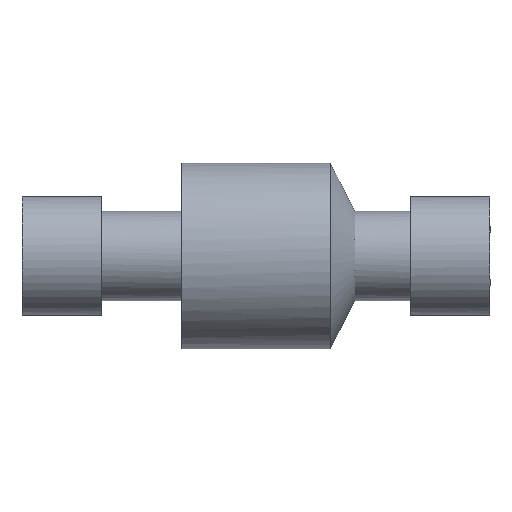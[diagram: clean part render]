
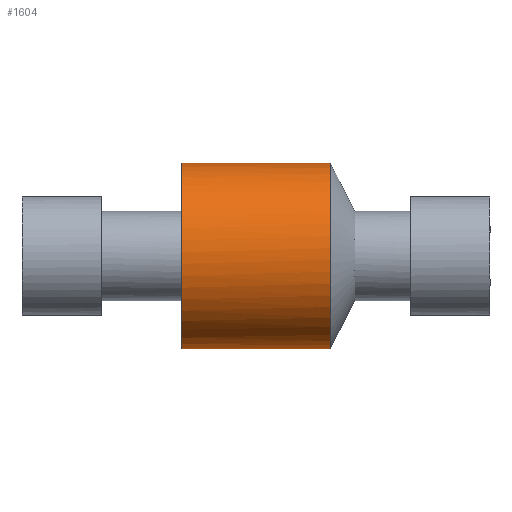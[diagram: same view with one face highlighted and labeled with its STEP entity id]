
A CAD part, front view. The second image highlights one B-rep face of the part: STEP entity #1604.
In plain terms, the highlighted free-form (B-spline) face has degree [2, 1] with [5, 2] control points.
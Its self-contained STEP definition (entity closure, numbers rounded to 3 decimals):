
#1604 = ADVANCED_FACE('',(#1605),#1618,.T.);
#1605 = FACE_BOUND('',#1606,.T.);
#1606 = EDGE_LOOP('',(#1607,#1635,#1655,#1670));
#1607 = ORIENTED_EDGE('',*,*,#1608,.T.);
#1608 = EDGE_CURVE('',#1609,#1611,#1613,.T.);
#1609 = VERTEX_POINT('',#1610);
#1610 = CARTESIAN_POINT('',(12.48,0.,-15.6));
#1611 = VERTEX_POINT('',#1612);
#1612 = CARTESIAN_POINT('',(-12.48,0.,-15.6));
#1613 = SURFACE_CURVE('',#1614,(#1617),.PCURVE_S1.);
#1614 = B_SPLINE_CURVE_WITH_KNOTS('',1,(#1615,#1616),.UNSPECIFIED.,.F.,
  .F.,(2,2),(0.,24.96),.PIECEWISE_BEZIER_KNOTS.);
#1615 = CARTESIAN_POINT('',(12.48,0.,-15.6));
#1616 = CARTESIAN_POINT('',(-12.48,0.,-15.6));
#1617 = PCURVE('',#1618,#1629);
#1618 = ( BOUNDED_SURFACE() B_SPLINE_SURFACE(2,1,(
    (#1619,#1620)
    ,(#1621,#1622)
    ,(#1623,#1624)
    ,(#1625,#1626)
    ,(#1627,#1628
)),.UNSPECIFIED.,.F.,.F.,.F.) B_SPLINE_SURFACE_WITH_KNOTS((3,2,3),(2,2),
  (0.,1.571,3.142),(0.,24.96),
.PIECEWISE_BEZIER_KNOTS.) GEOMETRIC_REPRESENTATION_ITEM() 
RATIONAL_B_SPLINE_SURFACE((
    (1.,1.)
    ,(0.707,0.707)
    ,(1.,1.)
    ,(0.707,0.707)
,(1.,1.))) REPRESENTATION_ITEM('') SURFACE() );
#1619 = CARTESIAN_POINT('',(-12.48,0.,-15.6));
#1620 = CARTESIAN_POINT('',(12.48,0.,-15.6));
#1621 = CARTESIAN_POINT('',(-12.48,-15.6,-15.6));
#1622 = CARTESIAN_POINT('',(12.48,-15.6,-15.6));
#1623 = CARTESIAN_POINT('',(-12.48,-15.6,0.));
#1624 = CARTESIAN_POINT('',(12.48,-15.6,0.));
#1625 = CARTESIAN_POINT('',(-12.48,-15.6,15.6));
#1626 = CARTESIAN_POINT('',(12.48,-15.6,15.6));
#1627 = CARTESIAN_POINT('',(-12.48,0.,15.6));
#1628 = CARTESIAN_POINT('',(12.48,0.,15.6));
#1629 = DEFINITIONAL_REPRESENTATION('',(#1630),#1634);
#1630 = B_SPLINE_CURVE_WITH_KNOTS('',2,(#1631,#1632,#1633),
  .UNSPECIFIED.,.F.,.F.,(3,3),(0.,24.96),.PIECEWISE_BEZIER_KNOTS.);
#1631 = CARTESIAN_POINT('',(0.,24.96));
#1632 = CARTESIAN_POINT('',(0.,12.48));
#1633 = CARTESIAN_POINT('',(0.,0.));
#1634 = ( GEOMETRIC_REPRESENTATION_CONTEXT(2) 
PARAMETRIC_REPRESENTATION_CONTEXT() REPRESENTATION_CONTEXT('2D SPACE',''
  ) );
#1635 = ORIENTED_EDGE('',*,*,#1636,.T.);
#1636 = EDGE_CURVE('',#1611,#1637,#1639,.T.);
#1637 = VERTEX_POINT('',#1638);
#1638 = CARTESIAN_POINT('',(-12.48,0.,15.6));
#1639 = SURFACE_CURVE('',#1640,(#1646),.PCURVE_S1.);
#1640 = ( BOUNDED_CURVE() B_SPLINE_CURVE(2,(#1641,#1642,#1643,#1644,
#1645),.UNSPECIFIED.,.F.,.F.) B_SPLINE_CURVE_WITH_KNOTS((3,2,3),(
    3.142,4.712,6.283),
.PIECEWISE_BEZIER_KNOTS.) CURVE() GEOMETRIC_REPRESENTATION_ITEM() 
RATIONAL_B_SPLINE_CURVE((1.,0.707,1.,0.707,1.)) 
REPRESENTATION_ITEM('') );
#1641 = CARTESIAN_POINT('',(-12.48,0.,-15.6));
#1642 = CARTESIAN_POINT('',(-12.48,-15.6,-15.6));
#1643 = CARTESIAN_POINT('',(-12.48,-15.6,0.));
#1644 = CARTESIAN_POINT('',(-12.48,-15.6,15.6));
#1645 = CARTESIAN_POINT('',(-12.48,0.,15.6));
#1646 = PCURVE('',#1618,#1647);
#1647 = DEFINITIONAL_REPRESENTATION('',(#1648),#1654);
#1648 = B_SPLINE_CURVE_WITH_KNOTS('',2,(#1649,#1650,#1651,#1652,#1653),
  .UNSPECIFIED.,.F.,.F.,(3,2,3),(3.142,4.712,
    6.283),.PIECEWISE_BEZIER_KNOTS.);
#1649 = CARTESIAN_POINT('',(0.,0.));
#1650 = CARTESIAN_POINT('',(0.785,0.));
#1651 = CARTESIAN_POINT('',(1.571,0.));
#1652 = CARTESIAN_POINT('',(2.356,0.));
#1653 = CARTESIAN_POINT('',(3.142,0.));
#1654 = ( GEOMETRIC_REPRESENTATION_CONTEXT(2) 
PARAMETRIC_REPRESENTATION_CONTEXT() REPRESENTATION_CONTEXT('2D SPACE',''
  ) );
#1655 = ORIENTED_EDGE('',*,*,#1656,.T.);
#1656 = EDGE_CURVE('',#1637,#1657,#1659,.T.);
#1657 = VERTEX_POINT('',#1658);
#1658 = CARTESIAN_POINT('',(12.48,0.,15.6));
#1659 = SURFACE_CURVE('',#1660,(#1663),.PCURVE_S1.);
#1660 = B_SPLINE_CURVE_WITH_KNOTS('',1,(#1661,#1662),.UNSPECIFIED.,.F.,
  .F.,(2,2),(0.,24.96),.PIECEWISE_BEZIER_KNOTS.);
#1661 = CARTESIAN_POINT('',(-12.48,0.,15.6));
#1662 = CARTESIAN_POINT('',(12.48,0.,15.6));
#1663 = PCURVE('',#1618,#1664);
#1664 = DEFINITIONAL_REPRESENTATION('',(#1665),#1669);
#1665 = B_SPLINE_CURVE_WITH_KNOTS('',2,(#1666,#1667,#1668),
  .UNSPECIFIED.,.F.,.F.,(3,3),(0.,24.96),.PIECEWISE_BEZIER_KNOTS.);
#1666 = CARTESIAN_POINT('',(3.142,0.));
#1667 = CARTESIAN_POINT('',(3.142,12.48));
#1668 = CARTESIAN_POINT('',(3.142,24.96));
#1669 = ( GEOMETRIC_REPRESENTATION_CONTEXT(2) 
PARAMETRIC_REPRESENTATION_CONTEXT() REPRESENTATION_CONTEXT('2D SPACE',''
  ) );
#1670 = ORIENTED_EDGE('',*,*,#1671,.T.);
#1671 = EDGE_CURVE('',#1657,#1609,#1672,.T.);
#1672 = SURFACE_CURVE('',#1673,(#1679),.PCURVE_S1.);
#1673 = ( BOUNDED_CURVE() B_SPLINE_CURVE(2,(#1674,#1675,#1676,#1677,
#1678),.UNSPECIFIED.,.F.,.F.) B_SPLINE_CURVE_WITH_KNOTS((3,2,3),(0.,
1.571,3.142),.PIECEWISE_BEZIER_KNOTS.) CURVE() 
GEOMETRIC_REPRESENTATION_ITEM() RATIONAL_B_SPLINE_CURVE((1.,
0.707,1.,0.707,1.)) REPRESENTATION_ITEM('') );
#1674 = CARTESIAN_POINT('',(12.48,0.,15.6));
#1675 = CARTESIAN_POINT('',(12.48,-15.6,15.6));
#1676 = CARTESIAN_POINT('',(12.48,-15.6,0.));
#1677 = CARTESIAN_POINT('',(12.48,-15.6,-15.6));
#1678 = CARTESIAN_POINT('',(12.48,0.,-15.6));
#1679 = PCURVE('',#1618,#1680);
#1680 = DEFINITIONAL_REPRESENTATION('',(#1681),#1687);
#1681 = B_SPLINE_CURVE_WITH_KNOTS('',2,(#1682,#1683,#1684,#1685,#1686),
  .UNSPECIFIED.,.F.,.F.,(3,2,3),(0.,1.571,3.142),
  .PIECEWISE_BEZIER_KNOTS.);
#1682 = CARTESIAN_POINT('',(3.142,24.96));
#1683 = CARTESIAN_POINT('',(2.356,24.96));
#1684 = CARTESIAN_POINT('',(1.571,24.96));
#1685 = CARTESIAN_POINT('',(0.785,24.96));
#1686 = CARTESIAN_POINT('',(0.,24.96));
#1687 = ( GEOMETRIC_REPRESENTATION_CONTEXT(2) 
PARAMETRIC_REPRESENTATION_CONTEXT() REPRESENTATION_CONTEXT('2D SPACE',''
  ) );
